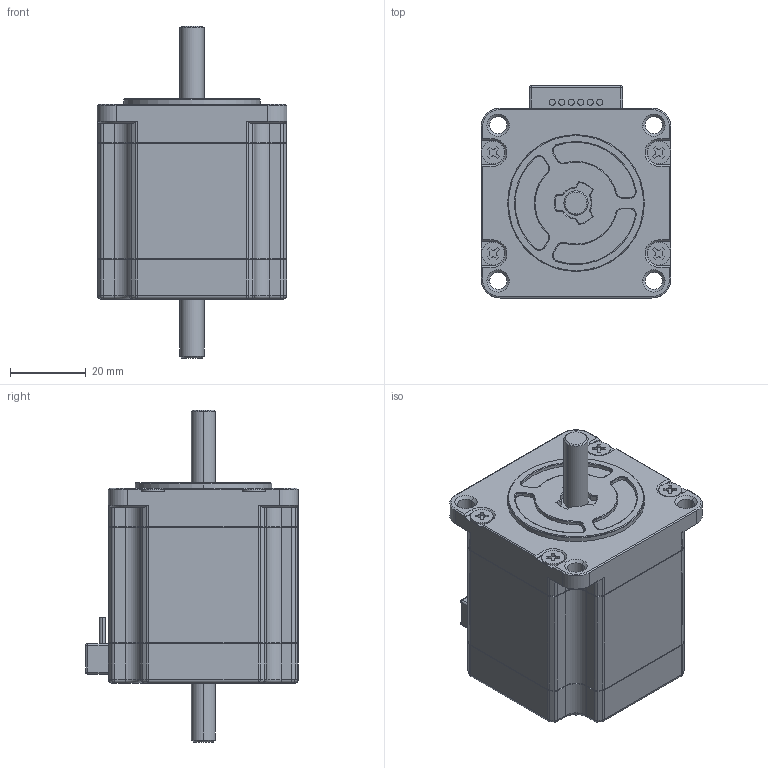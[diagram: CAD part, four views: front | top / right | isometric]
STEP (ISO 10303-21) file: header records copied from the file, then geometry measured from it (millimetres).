
FILE_DESCRIPTION (( 'STEP AP203' ), '1' );
FILE_NAME ('103H6703-0410.STEP', '2013-12-26T10:59:26', ( ' ' ), ( '' ), 'SwSTEP 2.0', 'SolidWorks 2012', '' );
FILE_SCHEMA (( 'CONFIG_CONTROL_DESIGN' ));
Length unit declared in the file: millimetre
Products named in the file (1): 103H6703-0410
Bounding box: 50 x 56 x 87.4 mm (x, y, z)
Volume: 117804.1 mm3; surface area: 16449.2 mm2
Topology: 1 solids, 1 shells, 611 faces, 1503 edges, 913 vertices
Faces by surface type: plane 221, cylinder 209, cone 113, torus 36, sphere 20, bspline 12
Entity records: 18322 total; most frequent: CARTESIAN_POINT 3655, DIRECTION 3212, ORIENTED_EDGE 2982, EDGE_CURVE 1491, AXIS2_PLACEMENT_3D 1209, VERTEX_POINT 913, LINE 794, VECTOR 794
